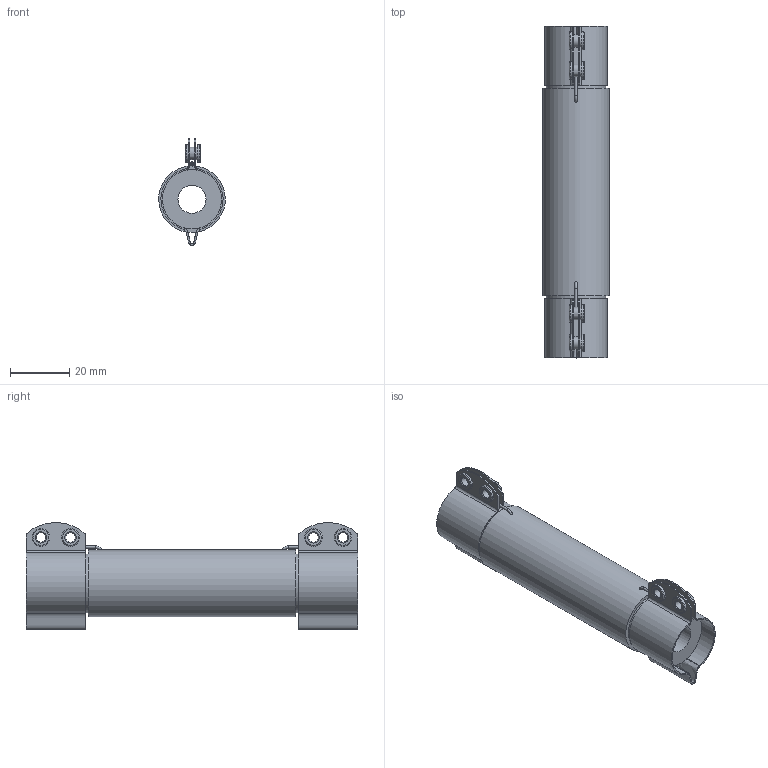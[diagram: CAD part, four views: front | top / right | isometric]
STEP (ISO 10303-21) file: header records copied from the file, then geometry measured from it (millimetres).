
FILE_DESCRIPTION(/* description */ (''),/* implementation_level */ '2;1');
FILE_NAME(/* name */ 'C:\_Vault\Dati\CATALOGO\RC-RS\TF\RS1060.stp',/* time_stamp */ '2014-01-29T14:36:34+01:00',/* author */ ('stefano'),/* organization */ (''),/* preprocessor_version */ 'ST-DEVELOPER v15.2',/* originating_system */ 'Autodesk Inventor 2014',/* authorisation */ '');
FILE_SCHEMA (('AUTOMOTIVE_DESIGN { 1 0 10303 214 3 1 1 }'));
Length unit declared in the file: millimetre
Products named in the file (1): RS1060
Bounding box: 22.48 x 112 x 35.96 mm (x, y, z)
Volume: 32074.6 mm3; surface area: 15192.8 mm2
Topology: 1 solids, 5 shells, 122 faces, 285 edges, 185 vertices
Faces by surface type: cylinder 52, plane 44, torus 18, bspline 8
Full cylindrical faces by diameter (mm): 0.4 x2, 0.8 x4, 3.2 x4, 4.2 x8, 6 x8, 9.5 x1, 20 x2, 22.5 x1
Entity records: 3875 total; most frequent: CARTESIAN_POINT 1075, DIRECTION 554, ORIENTED_EDGE 456, AXIS2_PLACEMENT_3D 239, EDGE_CURVE 228, EDGE_LOOP 208, VERTEX_POINT 176, CIRCLE 124
